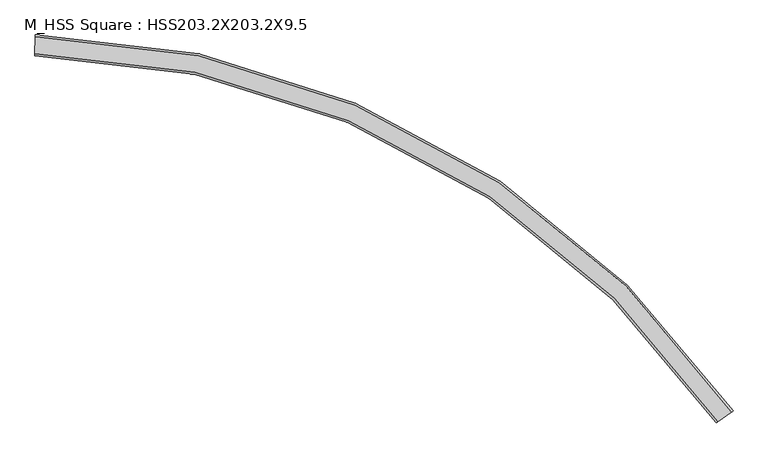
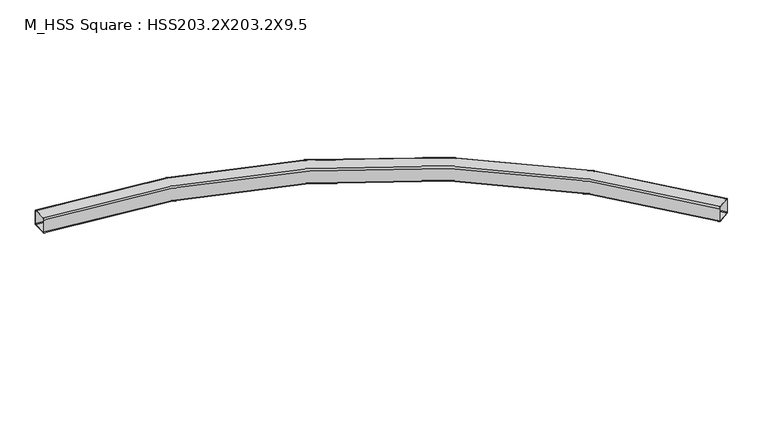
"""IFC4 building model written with IfcOpenShell, lengths in millimetres: beam geometry, M_HSS Square : HSS203.2X203.2X9.5."""

from ifc_helpers import new_model, si_unit, point, frame, origin, place, context, project, spatial, polyline, circle_curve, ellipse_curve, trimmed, source, transform, mapped, element, save
from ifc_brep_helpers import plane_surface, cylinder_surface, revolved_surface, advanced_brep


def m_hss_square_hss203_2x203_2x9_5_18346204(model_context):
    return source(origin(), model_context, "Body", "AdvancedBrep", [
        advanced_brep(
        [(174.058799, -103.3244643, 82.44), (174.4583245, -84.2686521, 101.5), (177.9144512, 80.5751212, 101.5), (178.3139767, 99.6309334, 82.44), (178.3139767, 99.6309334, -82.44), (177.9144512, 80.5751212, -101.5), (174.4583245, -84.2686521, -101.5), (174.058799, -103.3244643, -82.44), (177.9144512, 80.5751212, 91.97), (174.4583245, -84.2686521, 91.97), (174.2585618, -93.7965582, 82.44), (174.2585618, -93.7965582, -82.44), (174.4583245, -84.2686521, -91.97), (177.9144512, 80.5751212, -91.97), (178.1142139, 90.1030273, -82.44), (178.1142139, 90.1030273, 82.44), (6838.6101964, -3695.0821034, 82.44), (6838.6101964, -3695.0821034, -82.44), (6854.3071882, -3684.2706256, -101.5), (6990.0952258, -3590.7451038, -101.5), (7005.7922175, -3579.9336261, -82.44), (7005.7922175, -3579.9336261, 82.44), (6990.0952258, -3590.7451038, 101.5), (6854.3071882, -3684.2706256, 101.5), (6990.0952258, -3590.7451038, 91.97), (6997.9437217, -3585.3393649, 82.44), (6997.9437217, -3585.3393649, -82.44), (6990.0952258, -3590.7451038, -91.97), (6854.3071882, -3684.2706256, -91.97), (6846.4586923, -3689.6763645, -82.44), (6846.4586923, -3689.6763645, 82.44), (6854.3071882, -3684.2706256, 91.97)],
        [
            (0, 1, circle_curve(frame((174.4583245, -84.2686521, 82.44), z_axis=(-0.9997802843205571, 0.02096146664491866, 0.0), x_axis=(0.02096146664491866, 0.9997802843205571, 0.0)), 19.06)),
            (1, 2),
            (2, 3, circle_curve(frame((177.9144512, 80.5751212, 82.44), z_axis=(-0.9997802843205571, 0.02096146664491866, 0.0), x_axis=(0.02096146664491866, 0.9997802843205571, 0.0)), 19.06)),
            (3, 4),
            (4, 5, circle_curve(frame((177.9144512, 80.5751212, -82.44), z_axis=(-0.9997802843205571, 0.02096146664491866, 0.0), x_axis=(0.02096146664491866, 0.9997802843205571, 0.0)), 19.06)),
            (5, 6),
            (6, 7, circle_curve(frame((174.4583245, -84.2686521, -82.44), z_axis=(-0.9997802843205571, 0.02096146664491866, 0.0), x_axis=(0.02096146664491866, 0.9997802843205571, 0.0)), 19.06)),
            (7, 0),
            (8, 9),
            (9, 10, circle_curve(frame((174.4583245, -84.2686521, 82.44), z_axis=(0.9997802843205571, -0.02096146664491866, 0.0), x_axis=(0.02096146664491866, 0.9997802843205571, 0.0)), 9.53)),
            (10, 11),
            (11, 12, circle_curve(frame((174.4583245, -84.2686521, -82.44), z_axis=(0.9997802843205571, -0.02096146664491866, 0.0), x_axis=(0.02096146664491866, 0.9997802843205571, 0.0)), 9.53)),
            (12, 13),
            (13, 14, circle_curve(frame((177.9144512, 80.5751212, -82.44), z_axis=(0.9997802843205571, -0.02096146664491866, 0.0), x_axis=(0.02096146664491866, 0.9997802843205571, 0.0)), 9.53)),
            (14, 15),
            (15, 8, circle_curve(frame((177.9144512, 80.5751212, 82.44), z_axis=(0.9997802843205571, -0.02096146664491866, 0.0), x_axis=(0.02096146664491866, 0.9997802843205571, 0.0)), 9.53)),
            (16, 17),
            (17, 18, circle_curve(frame((6854.3071882, -3684.2706256, -82.44), z_axis=(0.5672338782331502, -0.823556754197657, 0.0), x_axis=(0.823556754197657, 0.5672338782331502, 0.0)), 19.06)),
            (18, 19),
            (19, 20, circle_curve(frame((6990.0952258, -3590.7451038, -82.44), z_axis=(0.5672338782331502, -0.823556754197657, 0.0), x_axis=(0.823556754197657, 0.5672338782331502, 0.0)), 19.06)),
            (20, 21),
            (21, 22, circle_curve(frame((6990.0952258, -3590.7451038, 82.44), z_axis=(0.5672338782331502, -0.823556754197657, 0.0), x_axis=(0.823556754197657, 0.5672338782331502, 0.0)), 19.06)),
            (22, 23),
            (23, 16, circle_curve(frame((6854.3071882, -3684.2706256, 82.44), z_axis=(0.5672338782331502, -0.823556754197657, 0.0), x_axis=(0.823556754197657, 0.5672338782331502, 0.0)), 19.06)),
            (24, 25, circle_curve(frame((6990.0952258, -3590.7451038, 82.44), z_axis=(-0.5672338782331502, 0.823556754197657, 0.0), x_axis=(0.823556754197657, 0.5672338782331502, 0.0)), 9.53)),
            (25, 26),
            (26, 27, circle_curve(frame((6990.0952258, -3590.7451038, -82.44), z_axis=(-0.5672338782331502, 0.823556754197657, 0.0), x_axis=(0.823556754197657, 0.5672338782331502, 0.0)), 9.53)),
            (27, 28),
            (28, 29, circle_curve(frame((6854.3071882, -3684.2706256, -82.44), z_axis=(-0.5672338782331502, 0.823556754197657, 0.0), x_axis=(0.823556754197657, 0.5672338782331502, 0.0)), 9.53)),
            (29, 30),
            (30, 31, circle_curve(frame((6854.3071882, -3684.2706256, 82.44), z_axis=(-0.5672338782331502, 0.823556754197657, 0.0), x_axis=(0.823556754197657, 0.5672338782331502, 0.0)), 9.53)),
            (31, 24),
            (0, 16, circle_curve(frame((0.0, -8405.2509699, 82.44), z_axis=(0.0, 0.0, -1.0), x_axis=(-0.9999968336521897, 0.002516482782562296, 0.0)), 8303.7509699)),
            (23, 1, circle_curve(frame((0.0, -8405.2509699, 101.5), z_axis=(0.0, 0.0, 1.0), x_axis=(-0.9999968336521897, 0.002516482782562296, 0.0)), 8322.8109699)),
            (22, 2, circle_curve(frame((0.0, -8405.2509699, 101.5), z_axis=(0.0, 0.0, 1.0), x_axis=(-0.9999968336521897, 0.002516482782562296, 0.0)), 8487.6909699)),
            (21, 3, circle_curve(frame((0.0, -8405.2509699, 82.44), z_axis=(0.0, 0.0, 1.0), x_axis=(-0.9999968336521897, 0.002516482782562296, 0.0)), 8506.7509699)),
            (20, 4, circle_curve(frame((0.0, -8405.2509699, -82.44), z_axis=(0.0, 0.0, 1.0), x_axis=(-0.9999968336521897, 0.002516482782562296, 0.0)), 8506.7509699)),
            (19, 5, circle_curve(frame((0.0, -8405.2509699, -101.5), z_axis=(0.0, 0.0, 1.0), x_axis=(-0.9999968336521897, 0.002516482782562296, 0.0)), 8487.6909699)),
            (18, 6, circle_curve(frame((0.0, -8405.2509699, -101.5), z_axis=(0.0, 0.0, 1.0), x_axis=(-0.9999968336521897, 0.002516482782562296, 0.0)), 8322.8109699)),
            (17, 7, circle_curve(frame((0.0, -8405.2509699, -82.44), z_axis=(0.0, 0.0, 1.0), x_axis=(-0.9999968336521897, 0.002516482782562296, 0.0)), 8303.7509699)),
            (8, 24, circle_curve(frame((0.0, -8405.2509699, 91.97), z_axis=(0.0, 0.0, -1.0), x_axis=(-0.9999968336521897, 0.002516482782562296, 0.0)), 8487.6909699)),
            (31, 9, circle_curve(frame((0.0, -8405.2509699, 91.97), z_axis=(0.0, 0.0, 1.0), x_axis=(-0.9999968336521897, 0.002516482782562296, 0.0)), 8322.8109699)),
            (30, 10, circle_curve(frame((0.0, -8405.2509699, 82.44), z_axis=(0.0, 0.0, 1.0), x_axis=(-0.9999968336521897, 0.002516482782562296, 0.0)), 8313.2809699)),
            (29, 11, circle_curve(frame((0.0, -8405.2509699, -82.44), z_axis=(0.0, 0.0, 1.0), x_axis=(-0.9999968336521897, 0.002516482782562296, 0.0)), 8313.2809699)),
            (28, 12, circle_curve(frame((0.0, -8405.2509699, -91.97), z_axis=(0.0, 0.0, 1.0), x_axis=(-0.9999968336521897, 0.002516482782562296, 0.0)), 8322.8109699)),
            (27, 13, circle_curve(frame((0.0, -8405.2509699, -91.97), z_axis=(0.0, 0.0, 1.0), x_axis=(-0.9999968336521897, 0.002516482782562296, 0.0)), 8487.6909699)),
            (26, 14, circle_curve(frame((0.0, -8405.2509699, -82.44), z_axis=(0.0, 0.0, 1.0), x_axis=(-0.9999968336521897, 0.002516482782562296, 0.0)), 8497.2209699)),
            (25, 15, circle_curve(frame((0.0, -8405.2509699, 82.44), z_axis=(0.0, 0.0, 1.0), x_axis=(-0.9999968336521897, 0.002516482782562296, 0.0)), 8497.2209699)),
        ],
        [
            plane_surface(frame((176.1863878, -1.8467654, 0.0), z_axis=(-0.999780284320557, 0.020961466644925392, 0.0), x_axis=(0.0, 0.0, 1.0))),
            plane_surface(frame((6922.201207, -3637.5078647, 0.0), z_axis=(0.5672338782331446, -0.8235567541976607, 0.0), x_axis=(0.0, 0.0, 1.0))),
            revolved_surface(trimmed(ellipse_curve(frame((-8322.784617, -8384.3067594, 82.44), z_axis=(-0.002516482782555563, -0.9999968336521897, 0.0), x_axis=(-0.9999968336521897, 0.002516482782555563, 0.0)), 19.06, 19.06), [point((-8303.7246773, -8384.3547236, 82.44))], [point((-8322.784617, -8384.3067594, 101.5))], True, "CARTESIAN"), (0.0, -8405.2509699, 0.0), (0.0, 0.0, -1.0000000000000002)),
            plane_surface(frame((0.0, -8405.2509699, 101.5), z_axis=(0.0, 0.0, 1.0000000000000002), x_axis=(-0.9999968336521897, 0.002516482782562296, 0.0))),
            revolved_surface(trimmed(ellipse_curve(frame((-8487.6640949, -8383.8918417, 82.44), z_axis=(-0.002516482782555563, -0.9999968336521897, 0.0), x_axis=(-0.9999968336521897, 0.002516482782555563, 0.0)), 19.06, 19.06), [point((-8487.6640949, -8383.8918417, 101.5))], [point((-8506.7240346, -8383.8438776, 82.44))], True, "CARTESIAN"), (0.0, -8405.2509699, 0.0), (0.0, 0.0, -1.0000000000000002)),
            cylinder_surface(frame((0.0, -8405.2509699, 0.0), z_axis=(0.0, 0.0, -1.0000000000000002), x_axis=(-0.9999968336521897, 0.002516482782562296, 0.0)), 8506.7509699),
            revolved_surface(trimmed(ellipse_curve(frame((-8487.6640949, -8383.8918417, -82.44), z_axis=(-0.002516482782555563, -0.9999968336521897, 0.0), x_axis=(-0.9999968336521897, 0.002516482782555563, 0.0)), 19.06, 19.06), [point((-8506.7240346, -8383.8438776, -82.44))], [point((-8487.6640949, -8383.8918417, -101.5))], True, "CARTESIAN"), (0.0, -8405.2509699, 0.0), (0.0, 0.0, -1.0000000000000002)),
            plane_surface(frame((0.0, -8405.2509699, -101.5), z_axis=(0.0, 0.0, -1.0000000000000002), x_axis=(-0.9999968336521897, 0.002516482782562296, 0.0))),
            revolved_surface(trimmed(ellipse_curve(frame((-8322.784617, -8384.3067594, -82.44), z_axis=(-0.002516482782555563, -0.9999968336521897, 0.0), x_axis=(-0.9999968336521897, 0.002516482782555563, 0.0)), 19.06, 19.06), [point((-8322.784617, -8384.3067594, -101.5))], [point((-8303.7246773, -8384.3547236, -82.44))], True, "CARTESIAN"), (0.0, -8405.2509699, 0.0), (0.0, 0.0, -1.0000000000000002)),
            revolved_surface(polyline([(-8303.7246773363, -8384.354723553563, -82.44000000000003), (-8303.7246773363, -8384.354723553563, 82.44000000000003)]), (0.0, -8405.2509699, 0.0), (0.0, 0.0, -1.0000000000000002)),
            plane_surface(frame((0.0, -8405.2509699, 91.97), z_axis=(0.0, 0.0, -1.0000000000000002), x_axis=(-0.9999968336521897, 0.002516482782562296, 0.0))),
            revolved_surface(trimmed(ellipse_curve(frame((-8322.784617, -8384.3067594, 82.44), z_axis=(0.002516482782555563, 0.9999968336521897, 0.0), x_axis=(-0.9999968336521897, 0.002516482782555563, 0.0)), 9.53, 9.53), [point((-8322.784617, -8384.3067594, 91.97))], [point((-8313.2546472, -8384.3307415, 82.44))], True, "CARTESIAN"), (0.0, -8405.2509699, 0.0), (0.0, 0.0, -1.0000000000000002)),
            cylinder_surface(frame((0.0, -8405.2509699, 0.0), z_axis=(0.0, 0.0, -1.0000000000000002), x_axis=(-0.9999968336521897, 0.002516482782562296, 0.0)), 8313.2809699),
            revolved_surface(trimmed(ellipse_curve(frame((-8322.784617, -8384.3067594, -82.44), z_axis=(0.002516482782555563, 0.9999968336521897, 0.0), x_axis=(-0.9999968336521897, 0.002516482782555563, 0.0)), 9.53, 9.53), [point((-8313.2546472, -8384.3307415, -82.44))], [point((-8322.784617, -8384.3067594, -91.97))], True, "CARTESIAN"), (0.0, -8405.2509699, 0.0), (0.0, 0.0, -1.0000000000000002)),
            plane_surface(frame((0.0, -8405.2509699, -91.97), z_axis=(0.0, 0.0, 1.0000000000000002), x_axis=(-0.9999968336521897, 0.002516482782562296, 0.0))),
            revolved_surface(trimmed(ellipse_curve(frame((-8487.6640949, -8383.8918417, -82.44), z_axis=(0.002516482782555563, 0.9999968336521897, 0.0), x_axis=(-0.9999968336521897, 0.002516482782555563, 0.0)), 9.53, 9.53), [point((-8487.6640949, -8383.8918417, -91.97))], [point((-8497.1940648, -8383.8678596, -82.44))], True, "CARTESIAN"), (0.0, -8405.2509699, 0.0), (0.0, 0.0, -1.0000000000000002)),
            revolved_surface(polyline([(-8497.194064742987, -8383.86785962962, -82.44000000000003), (-8497.194064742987, -8383.86785962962, 82.44000000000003)]), (0.0, -8405.2509699, 0.0), (0.0, 0.0, -1.0000000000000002)),
            revolved_surface(trimmed(ellipse_curve(frame((-8487.6640949, -8383.8918417, 82.44), z_axis=(0.002516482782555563, 0.9999968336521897, 0.0), x_axis=(-0.9999968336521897, 0.002516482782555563, 0.0)), 9.53, 9.53), [point((-8497.1940648, -8383.8678596, 82.44))], [point((-8487.6640949, -8383.8918417, 91.97))], True, "CARTESIAN"), (0.0, -8405.2509699, 0.0), (0.0, 0.0, -1.0000000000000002)),
        ],
        [
            (0, [[1, 2, 3, 4, 5, 6, 7, 8], [9, 10, 11, 12, 13, 14, 15, 16]]),
            (1, [[17, 18, 19, 20, 21, 22, 23, 24], [25, 26, 27, 28, 29, 30, 31, 32]]),
            (2, [[-1, 33, -24, 34]]),
            (3, [[-2, -34, -23, 35]]),
            (4, [[-3, -35, -22, 36]]),
            (5, [[-4, -36, -21, 37]]),
            (6, [[-5, -37, -20, 38]]),
            (7, [[-6, -38, -19, 39]]),
            (8, [[-7, -39, -18, 40]]),
            (9, [[-8, -40, -17, -33]]),
            (10, [[-9, 41, -32, 42]]),
            (11, [[-10, -42, -31, 43]]),
            (12, [[-11, -43, -30, 44]]),
            (13, [[-12, -44, -29, 45]]),
            (14, [[-13, -45, -28, 46]]),
            (15, [[-14, -46, -27, 47]]),
            (16, [[-15, -47, -26, 48]]),
            (17, [[-16, -48, -25, -41]]),
        ],
    ),
    ])


if __name__ == "__main__":
    model = new_model("IFC4")
    model_context = context("Model", 3, world=origin())
    ifc_project = project(units=[si_unit("LENGTHUNIT", "METRE", prefix="MILLI")], contexts=[model_context])
    site = spatial("IfcSite", under=ifc_project)
    building = spatial("IfcBuilding", under=site)
    placement = place(None, origin())
    m_hss_square_hss203_2x203_2x9_5_shape = m_hss_square_hss203_2x203_2x9_5_18346204(model_context)
    element("IfcBeam", 1, ObjectType="M_HSS Square : HSS203.2X203.2X9.5", at=placement, inside=building, context=model_context, shape_type="MappedRepresentation", body=[
        mapped(m_hss_square_hss203_2x203_2x9_5_shape, transform((0.0, 0.0, 0.0), x_axis=(1.0, 0.0, 0.0), y_axis=(0.0, 1.0, 0.0), z_axis=(0.0, 0.0, 1.0))),
    ])
    save(model, "model.ifc")
